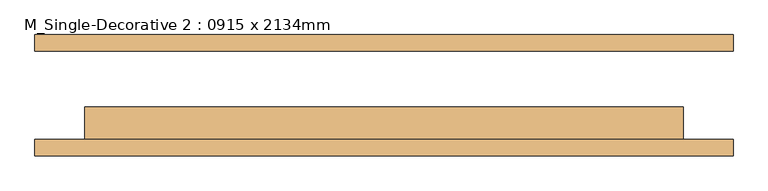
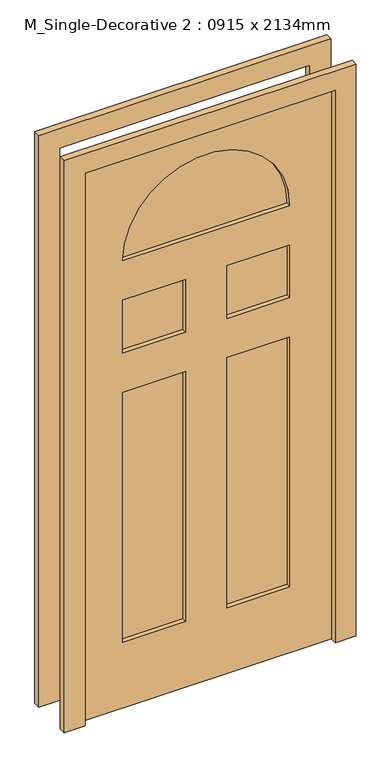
"""IFC4 building model written with IfcOpenShell, lengths in millimetres: door geometry, M_Single-Decorative 2 : 0915 x 2134mm."""

from ifc_helpers import new_model, si_unit, point, frame, frame_2d, origin, place, context, project, spatial, polyline, circle_curve, trimmed, segment, composite_curve, outline, extrude, source, transform, mapped, element, save


def m_single_decorative_2_0915_x_2134mm_0b11df3f(model_context):
    return source(origin(), model_context, "Body", "SweptSolid", [
        extrude(outline(polyline([(2134.0, 457.5), (2134.0, -457.5), (0.0, -457.5), (0.0, 457.5), (2134.0, 457.5)]), holes=[polyline([(1219.3, -76.2), (254.0, -76.2), (254.0, -305.1), (1219.3, -305.1), (1219.3, -76.2)]), polyline([(1219.3, 305.1), (254.0, 305.1), (254.0, 76.2), (1219.3, 76.2), (1219.3, 305.1)]), polyline([(1371.7, -76.2), (1371.7, -305.1), (1574.9, -305.1), (1574.9, -76.2), (1371.7, -76.2)]), polyline([(1574.9, 76.2), (1574.9, 305.1), (1371.7, 305.1), (1371.7, 76.2), (1574.9, 76.2)]), composite_curve([segment(polyline([(1727.3, 305.1), (1727.3, -305.1)]), True, "CONTINUOUS"), segment(trimmed(circle_curve(frame_2d((1727.3, 0.0)), 305.1), [point((1727.3, -305.1))], [point((1727.3, 305.1))], True, "CARTESIAN"), True, "CONTINUOUS")], self_intersect=False)]), frame((0.0, -67.75, 0.0), z_axis=(0.0, 1.0, 0.0), x_axis=(0.0, 0.0, 1.0)), (0.0, 0.0, 1.0), 50.0),
        extrude(outline(polyline([(0.0, 457.5), (0.0, 533.5), (2209.0, 533.5), (2209.0, -533.5), (0.0, -533.5), (0.0, -457.5), (2134.0, -457.5), (2134.0, 457.5), (0.0, 457.5)])), frame((0.0, 67.75, 0.0), z_axis=(0.0, 1.0, 0.0), x_axis=(0.0, 0.0, 1.0)), (0.0, 0.0, 1.0), 25.0),
        extrude(outline(polyline([(2209.0, -533.5), (0.0, -533.5), (0.0, -457.5), (2134.0, -457.5), (2134.0, 457.5), (0.0, 457.5), (0.0, 533.5), (2209.0, 533.5), (2209.0, -533.5)])), frame((0.0, -92.75, 0.0), z_axis=(0.0, 1.0, 0.0), x_axis=(0.0, 0.0, 1.0)), (0.0, 0.0, 1.0), 25.0),
        extrude(outline(composite_curve([segment(trimmed(circle_curve(frame_2d((1727.3, 0.0)), 305.1), [point((1727.3, 305.1))], [point((1727.3, -305.1))], False, "CARTESIAN"), True, "CONTINUOUS"), segment(polyline([(1727.3, -305.1), (1727.3, 305.1)]), True, "CONTINUOUS")], self_intersect=False)), frame((0.0, -51.0833333, 0.0), z_axis=(0.0, 1.0, 0.0), x_axis=(0.0, 0.0, 1.0)), (0.0, 0.0, 1.0), 16.6666667),
        extrude(outline(polyline([(-305.1, -51.0833333), (-305.1, -34.4166667), (-76.2, -34.4166667), (-76.2, -51.0833333), (-305.1, -51.0833333)])), frame((0.0, 0.0, 254.0), z_axis=(0.0, 0.0, 1.0), x_axis=(1.0, 0.0, 0.0)), (0.0, 0.0, 1.0), 965.3),
        extrude(outline(polyline([(76.2, -51.0833333), (76.2, -34.4166667), (305.1, -34.4166667), (305.1, -51.0833333), (76.2, -51.0833333)])), frame((0.0, 0.0, 254.0), z_axis=(0.0, 0.0, 1.0), x_axis=(1.0, 0.0, 0.0)), (0.0, 0.0, 1.0), 965.3),
        extrude(outline(polyline([(76.2, -51.0833333), (76.2, -34.4166667), (305.1, -34.4166667), (305.1, -51.0833333), (76.2, -51.0833333)])), frame((0.0, 0.0, 1371.7), z_axis=(0.0, 0.0, 1.0), x_axis=(1.0, 0.0, 0.0)), (0.0, 0.0, 1.0), 203.2),
        extrude(outline(polyline([(-305.1, -51.0833333), (-305.1, -34.4166667), (-76.2, -34.4166667), (-76.2, -51.0833333), (-305.1, -51.0833333)])), frame((0.0, 0.0, 1371.7), z_axis=(0.0, 0.0, 1.0), x_axis=(1.0, 0.0, 0.0)), (0.0, 0.0, 1.0), 203.2),
    ])


if __name__ == "__main__":
    model = new_model("IFC4")
    model_context = context("Model", 3, world=origin())
    ifc_project = project(units=[si_unit("LENGTHUNIT", "METRE", prefix="MILLI")], contexts=[model_context])
    site = spatial("IfcSite", under=ifc_project)
    building = spatial("IfcBuilding", under=site)
    placement = place(None, origin())
    m_single_decorative_2_0915_x_2134mm_shape = m_single_decorative_2_0915_x_2134mm_0b11df3f(model_context)
    element("IfcDoor", 1, ObjectType="M_Single-Decorative 2 : 0915 x 2134mm", at=placement, inside=building, context=model_context, shape_type="MappedRepresentation", body=[
        mapped(m_single_decorative_2_0915_x_2134mm_shape, transform((0.0, 0.0, 0.0), x_axis=(1.0, 0.0, 0.0), y_axis=(0.0, 1.0, 0.0), z_axis=(0.0, 0.0, 1.0))),
    ])
    save(model, "model.ifc")
